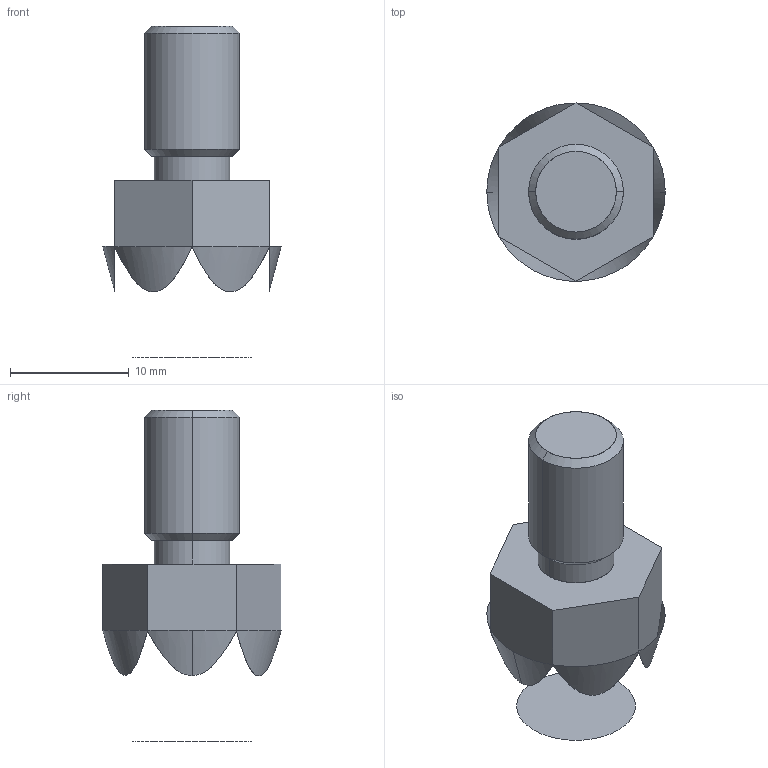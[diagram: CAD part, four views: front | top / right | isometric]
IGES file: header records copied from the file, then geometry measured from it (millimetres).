
Start section: SolidWorks IGES FILE using analytic representation for surfaces
Global section: file name: C:\WIX2\Positioning\3600\3600W081.igs; native system: SolidWorks 2003 by SolidWorks Corporation; preprocessor: Version 5.3; author: Joan; date: 030722.164458; units: millimetre
Bounding box: 15.05 x 15.01 x 28 mm (x, y, z)
Surface area: 1045.9 mm2 (no closed solid volume)
Topology: 0 solids, 0 shells, 20 faces, 336 edges, 334 vertices
Faces by surface type: revolution 10, bspline 10
